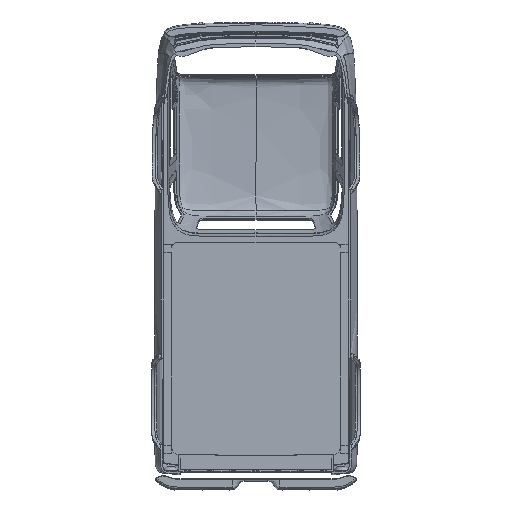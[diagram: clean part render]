
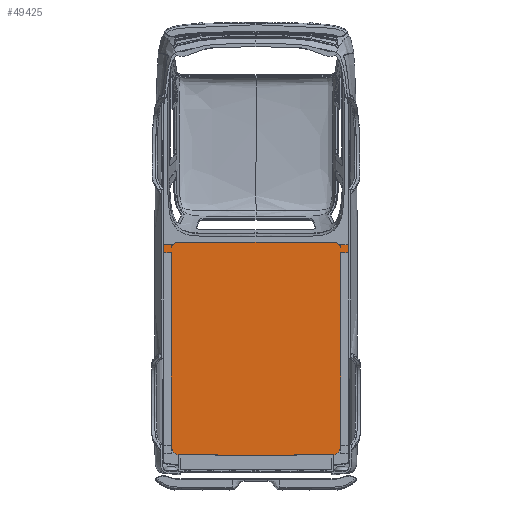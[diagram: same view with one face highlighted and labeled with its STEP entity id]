
A CAD part, front view. The second image highlights one B-rep face of the part: STEP entity #49425.
In plain terms, the highlighted planar face has unit normal (0, -1, 0).
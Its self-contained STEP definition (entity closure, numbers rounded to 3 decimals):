
#553=CIRCLE('',#52615,13.982);
#555=CIRCLE('',#52617,13.982);
#600=CIRCLE('',#52673,8.008);
#601=CIRCLE('',#52674,8.008);
#602=CIRCLE('',#52675,13.982);
#603=CIRCLE('',#52676,13.982);
#2732=LINE('',#79936,#4885);
#2739=LINE('',#79958,#4892);
#2748=LINE('',#80017,#4901);
#3106=LINE('',#82670,#5259);
#3119=LINE('',#83993,#5272);
#3120=LINE('',#83995,#5273);
#3121=LINE('',#83996,#5274);
#3122=LINE('',#83998,#5275);
#3123=LINE('',#84000,#5276);
#3124=LINE('',#84002,#5277);
#3125=LINE('',#84004,#5278);
#3126=LINE('',#84006,#5279);
#3127=LINE('',#84010,#5280);
#3128=LINE('',#84014,#5281);
#3129=LINE('',#84016,#5282);
#3130=LINE('',#84018,#5283);
#3131=LINE('',#84020,#5284);
#3132=LINE('',#84022,#5285);
#3133=LINE('',#84025,#5286);
#3134=LINE('',#84027,#5287);
#4885=VECTOR('',#55635,10.);
#4892=VECTOR('',#55644,10.);
#4901=VECTOR('',#55659,10.);
#5259=VECTOR('',#56957,10.);
#5272=VECTOR('',#56988,10.);
#5273=VECTOR('',#56989,10.);
#5274=VECTOR('',#56990,10.);
#5275=VECTOR('',#56991,10.);
#5276=VECTOR('',#56992,10.);
#5277=VECTOR('',#56993,10.);
#5278=VECTOR('',#56994,10.);
#5279=VECTOR('',#56995,10.);
#5280=VECTOR('',#56998,10.);
#5281=VECTOR('',#57001,10.);
#5282=VECTOR('',#57002,10.);
#5283=VECTOR('',#57003,10.);
#5284=VECTOR('',#57004,10.);
#5285=VECTOR('',#57005,10.);
#5286=VECTOR('',#57008,10.);
#5287=VECTOR('',#57009,10.);
#6979=PLANE('',#52672);
#8051=FACE_OUTER_BOUND('',#11014,.T.);
#11014=EDGE_LOOP('',(#33874,#33875,#33876,#33877,#33878,#33879,#33880,#33881,
#33882,#33883,#33884,#33885,#33886,#33887,#33888,#33889,#33890,#33891,#33892,
#33893,#33894,#33895,#33896,#33897,#33898,#33899));
#18733=VERTEX_POINT('',#79933);
#18734=VERTEX_POINT('',#79935);
#18741=VERTEX_POINT('',#79955);
#18742=VERTEX_POINT('',#79957);
#19094=VERTEX_POINT('',#82407);
#19095=VERTEX_POINT('',#82409);
#19098=VERTEX_POINT('',#82415);
#19190=VERTEX_POINT('',#82667);
#19191=VERTEX_POINT('',#82669);
#19234=VERTEX_POINT('',#83992);
#19235=VERTEX_POINT('',#83994);
#19236=VERTEX_POINT('',#83997);
#19237=VERTEX_POINT('',#83999);
#19238=VERTEX_POINT('',#84001);
#19239=VERTEX_POINT('',#84003);
#19240=VERTEX_POINT('',#84005);
#19241=VERTEX_POINT('',#84007);
#19242=VERTEX_POINT('',#84009);
#19243=VERTEX_POINT('',#84011);
#19244=VERTEX_POINT('',#84013);
#19245=VERTEX_POINT('',#84015);
#19246=VERTEX_POINT('',#84017);
#19247=VERTEX_POINT('',#84019);
#19248=VERTEX_POINT('',#84021);
#19249=VERTEX_POINT('',#84024);
#19250=VERTEX_POINT('',#84026);
#24067=EDGE_CURVE('',#18734,#18733,#2732,.T.);
#24075=EDGE_CURVE('',#18742,#18741,#2739,.T.);
#24086=EDGE_CURVE('',#18741,#18734,#2748,.T.);
#24663=EDGE_CURVE('',#19095,#19094,#553,.T.);
#24667=EDGE_CURVE('',#19098,#18733,#555,.T.);
#24766=EDGE_CURVE('',#19190,#19191,#3106,.T.);
#24816=EDGE_CURVE('',#19234,#19098,#3119,.T.);
#24817=EDGE_CURVE('',#19234,#19235,#3120,.T.);
#24818=EDGE_CURVE('',#19235,#19095,#3121,.T.);
#24819=EDGE_CURVE('',#19094,#19236,#3122,.T.);
#24820=EDGE_CURVE('',#19236,#19237,#3123,.T.);
#24821=EDGE_CURVE('',#19237,#19238,#3124,.T.);
#24822=EDGE_CURVE('',#19238,#19239,#3125,.T.);
#24823=EDGE_CURVE('',#19239,#19240,#3126,.T.);
#24824=EDGE_CURVE('',#19240,#19241,#600,.T.);
#24825=EDGE_CURVE('',#19242,#19241,#3127,.T.);
#24826=EDGE_CURVE('',#19243,#19242,#601,.T.);
#24827=EDGE_CURVE('',#19243,#19244,#3128,.T.);
#24828=EDGE_CURVE('',#19244,#19245,#3129,.T.);
#24829=EDGE_CURVE('',#19245,#19246,#3130,.T.);
#24830=EDGE_CURVE('',#19246,#19247,#3131,.T.);
#24831=EDGE_CURVE('',#19248,#19247,#3132,.T.);
#24832=EDGE_CURVE('',#19191,#19248,#602,.T.);
#24833=EDGE_CURVE('',#19249,#19190,#3133,.T.);
#24834=EDGE_CURVE('',#19250,#19249,#3134,.T.);
#24835=EDGE_CURVE('',#18742,#19250,#603,.T.);
#33874=ORIENTED_EDGE('',*,*,#24067,.T.);
#33875=ORIENTED_EDGE('',*,*,#24667,.F.);
#33876=ORIENTED_EDGE('',*,*,#24816,.F.);
#33877=ORIENTED_EDGE('',*,*,#24817,.T.);
#33878=ORIENTED_EDGE('',*,*,#24818,.T.);
#33879=ORIENTED_EDGE('',*,*,#24663,.T.);
#33880=ORIENTED_EDGE('',*,*,#24819,.T.);
#33881=ORIENTED_EDGE('',*,*,#24820,.T.);
#33882=ORIENTED_EDGE('',*,*,#24821,.T.);
#33883=ORIENTED_EDGE('',*,*,#24822,.T.);
#33884=ORIENTED_EDGE('',*,*,#24823,.T.);
#33885=ORIENTED_EDGE('',*,*,#24824,.T.);
#33886=ORIENTED_EDGE('',*,*,#24825,.F.);
#33887=ORIENTED_EDGE('',*,*,#24826,.F.);
#33888=ORIENTED_EDGE('',*,*,#24827,.T.);
#33889=ORIENTED_EDGE('',*,*,#24828,.T.);
#33890=ORIENTED_EDGE('',*,*,#24829,.T.);
#33891=ORIENTED_EDGE('',*,*,#24830,.T.);
#33892=ORIENTED_EDGE('',*,*,#24831,.F.);
#33893=ORIENTED_EDGE('',*,*,#24832,.F.);
#33894=ORIENTED_EDGE('',*,*,#24766,.F.);
#33895=ORIENTED_EDGE('',*,*,#24833,.F.);
#33896=ORIENTED_EDGE('',*,*,#24834,.F.);
#33897=ORIENTED_EDGE('',*,*,#24835,.F.);
#33898=ORIENTED_EDGE('',*,*,#24075,.T.);
#33899=ORIENTED_EDGE('',*,*,#24086,.T.);
#49425=ADVANCED_FACE('',(#8051),#6979,.T.);
#52615=AXIS2_PLACEMENT_3D('',#82410,#56808,#56809);
#52617=AXIS2_PLACEMENT_3D('',#82417,#56814,#56815);
#52672=AXIS2_PLACEMENT_3D('',#83991,#56986,#56987);
#52673=AXIS2_PLACEMENT_3D('',#84008,#56996,#56997);
#52674=AXIS2_PLACEMENT_3D('',#84012,#56999,#57000);
#52675=AXIS2_PLACEMENT_3D('',#84023,#57006,#57007);
#52676=AXIS2_PLACEMENT_3D('',#84028,#57010,#57011);
#55635=DIRECTION('',(0.,0.,-1.));
#55644=DIRECTION('',(0.,0.,1.));
#55659=DIRECTION('',(1.,0.,0.));
#56808=DIRECTION('center_axis',(0.,-1.,0.));
#56809=DIRECTION('ref_axis',(1.,0.,0.));
#56814=DIRECTION('center_axis',(0.,1.,0.));
#56815=DIRECTION('ref_axis',(1.,0.,0.));
#56957=DIRECTION('',(0.,0.,-1.));
#56986=DIRECTION('center_axis',(0.,-1.,0.));
#56987=DIRECTION('ref_axis',(0.,0.,1.));
#56988=DIRECTION('',(0.,0.,-1.));
#56989=DIRECTION('',(1.,0.,0.));
#56990=DIRECTION('',(0.,0.,-1.));
#56991=DIRECTION('',(0.,0.,1.));
#56992=DIRECTION('',(1.,0.,0.));
#56993=DIRECTION('',(0.,0.,1.));
#56994=DIRECTION('',(-1.,0.,0.));
#56995=DIRECTION('',(0.,0.,-1.));
#56996=DIRECTION('center_axis',(0.,-1.,0.));
#56997=DIRECTION('ref_axis',(0.049,0.,0.999));
#56998=DIRECTION('',(1.,0.,0.));
#56999=DIRECTION('center_axis',(0.,1.,0.));
#57000=DIRECTION('ref_axis',(-0.049,0.,0.999));
#57001=DIRECTION('',(0.,0.,1.));
#57002=DIRECTION('',(-1.,0.,0.));
#57003=DIRECTION('',(0.,0.,-1.));
#57004=DIRECTION('',(1.,0.,0.));
#57005=DIRECTION('',(0.,0.,1.));
#57006=DIRECTION('center_axis',(0.,1.,0.));
#57007=DIRECTION('ref_axis',(-1.,0.,0.));
#57008=DIRECTION('',(-1.,0.,0.));
#57009=DIRECTION('',(0.,0.,1.));
#57010=DIRECTION('center_axis',(0.,1.,0.));
#57011=DIRECTION('ref_axis',(-1.,0.,0.));
#79933=CARTESIAN_POINT('',(92.144,95.335,-522.197));
#79935=CARTESIAN_POINT('',(92.144,95.335,-521.52));
#79936=CARTESIAN_POINT('',(92.144,95.335,-457.946));
#79955=CARTESIAN_POINT('',(-92.144,95.335,-521.52));
#79957=CARTESIAN_POINT('',(-92.144,95.335,-522.197));
#79958=CARTESIAN_POINT('',(-92.144,95.335,-457.946));
#80017=CARTESIAN_POINT('',(-48.705,95.335,-521.52));
#82407=CARTESIAN_POINT('',(102.707,95.335,-508.639));
#82409=CARTESIAN_POINT('',(94.144,95.335,-521.529));
#82410=CARTESIAN_POINT('Origin',(88.725,95.335,-508.639));
#82415=CARTESIAN_POINT('',(92.394,95.335,-522.131));
#82417=CARTESIAN_POINT('Origin',(88.725,95.335,-508.639));
#82667=CARTESIAN_POINT('',(-94.144,95.335,-519.44));
#82669=CARTESIAN_POINT('',(-94.144,95.335,-521.529));
#82670=CARTESIAN_POINT('',(-94.144,95.335,-468.04));
#83991=CARTESIAN_POINT('Origin',(-51.339,95.335,-392.372));
#83992=CARTESIAN_POINT('',(92.394,95.335,-519.44));
#83993=CARTESIAN_POINT('',(92.394,95.335,-464.254));
#83994=CARTESIAN_POINT('',(94.144,95.335,-519.44));
#83995=CARTESIAN_POINT('',(72.304,95.335,-519.44));
#83996=CARTESIAN_POINT('',(94.144,95.335,-468.04));
#83997=CARTESIAN_POINT('',(102.707,95.335,-274.544));
#83998=CARTESIAN_POINT('',(102.707,95.335,-450.506));
#83999=CARTESIAN_POINT('',(112.179,95.335,-274.544));
#84000=CARTESIAN_POINT('',(102.579,95.335,-274.544));
#84001=CARTESIAN_POINT('',(112.179,95.335,-264.944));
#84002=CARTESIAN_POINT('',(112.179,95.335,-274.544));
#84003=CARTESIAN_POINT('',(102.579,95.335,-264.944));
#84004=CARTESIAN_POINT('',(112.179,95.335,-264.944));
#84005=CARTESIAN_POINT('',(102.579,95.335,-268.76));
#84006=CARTESIAN_POINT('',(102.579,95.335,-264.944));
#84007=CARTESIAN_POINT('',(95.088,95.335,-262.189));
#84008=CARTESIAN_POINT('Origin',(94.699,95.335,-270.188));
#84009=CARTESIAN_POINT('',(-95.088,95.335,-262.189));
#84010=CARTESIAN_POINT('',(-73.213,95.335,-262.189));
#84011=CARTESIAN_POINT('',(-102.579,95.335,-268.76));
#84012=CARTESIAN_POINT('Origin',(-94.699,95.335,-270.188));
#84013=CARTESIAN_POINT('',(-102.579,95.335,-264.944));
#84014=CARTESIAN_POINT('',(-102.579,95.335,-264.944));
#84015=CARTESIAN_POINT('',(-112.179,95.335,-264.944));
#84016=CARTESIAN_POINT('',(-112.179,95.335,-264.944));
#84017=CARTESIAN_POINT('',(-112.179,95.335,-274.544));
#84018=CARTESIAN_POINT('',(-112.179,95.335,-274.544));
#84019=CARTESIAN_POINT('',(-102.707,95.335,-274.544));
#84020=CARTESIAN_POINT('',(-102.579,95.335,-274.544));
#84021=CARTESIAN_POINT('',(-102.707,95.335,-508.639));
#84022=CARTESIAN_POINT('',(-102.707,95.335,-450.506));
#84023=CARTESIAN_POINT('Origin',(-88.725,95.335,-508.639));
#84024=CARTESIAN_POINT('',(-92.394,95.335,-519.44));
#84025=CARTESIAN_POINT('',(-20.965,95.335,-519.44));
#84026=CARTESIAN_POINT('',(-92.394,95.335,-522.131));
#84027=CARTESIAN_POINT('',(-92.394,95.335,-464.254));
#84028=CARTESIAN_POINT('Origin',(-88.725,95.335,-508.639));
